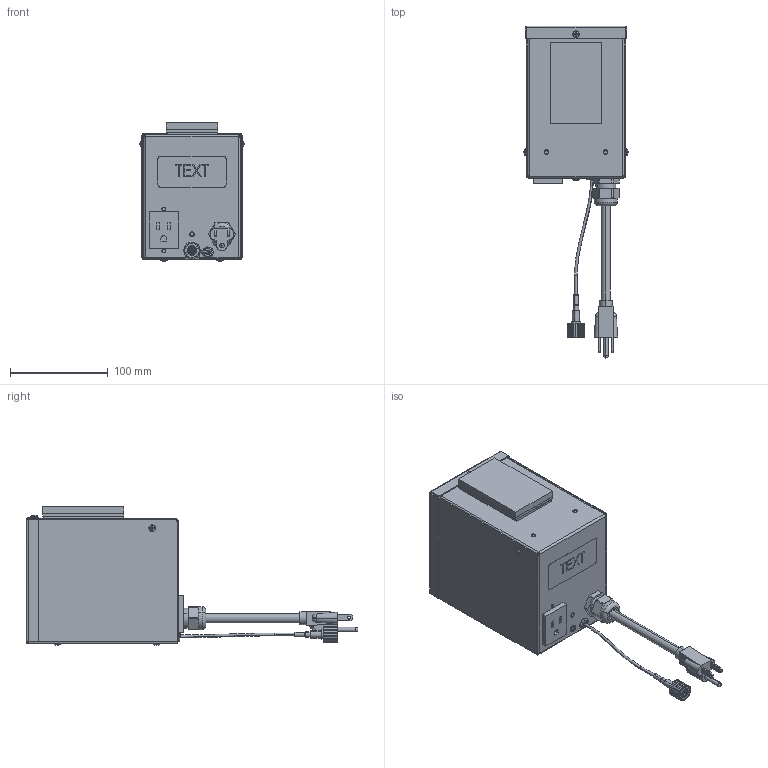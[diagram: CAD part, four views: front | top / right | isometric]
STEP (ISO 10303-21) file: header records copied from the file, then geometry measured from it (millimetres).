
FILE_DESCRIPTION (( 'STEP AP214' ), '1' );
FILE_NAME ('9-0580-XX.STEP', '2018-07-18T13:44:18', ( '' ), ( '' ), 'SwSTEP 2.0', 'SolidWorks 2017', '' );
FILE_SCHEMA (( 'AUTOMOTIVE_DESIGN' ));
Length unit declared in the file: inch
Products named in the file (1): 9-0580-XX
Bounding box: 106.51 x 339.31 x 141.82 mm (x, y, z)
Surface area: 201507.4 mm2 (no closed solid volume)
Topology: 0 solids, 53 shells, 429 faces, 1510 edges, 1094 vertices
Faces by surface type: plane 215, cylinder 116, torus 47, bspline 32, cone 11, sphere 8
Entity records: 23524 total; most frequent: CARTESIAN_POINT 5337, DIRECTION 2643, ORIENTED_EDGE 2269, EDGE_CURVE 1500, VERTEX_POINT 1094, AXIS2_PLACEMENT_3D 899, VECTOR 845, LINE 845
